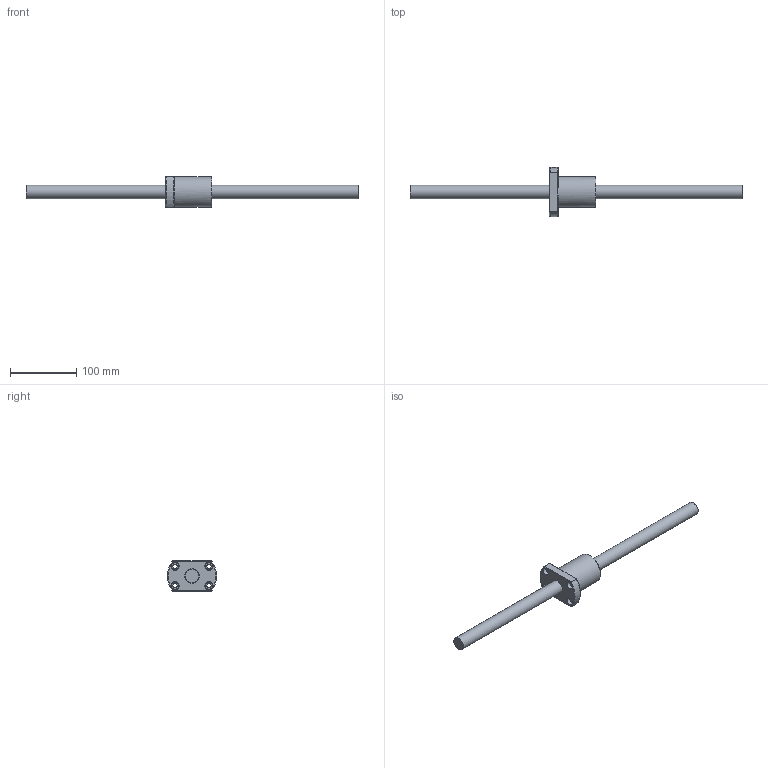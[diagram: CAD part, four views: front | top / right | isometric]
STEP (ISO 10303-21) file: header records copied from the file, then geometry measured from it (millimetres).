
FILE_DESCRIPTION (( 'STEP AP203' ), '1' );
FILE_NAME ('SFV02020D-1.8.step', '2024-05-20T03:37:57', ( '' ), ( '' ), 'SwSTEP 2.0', 'SolidWorks 2022', '' );
FILE_SCHEMA (( 'CONFIG_CONTROL_DESIGN' ));
Length unit declared in the file: millimetre
Products named in the file (1): SFV02020D-1.8
Bounding box: 500 x 74 x 46 mm (x, y, z)
Volume: 262113.1 mm3; surface area: 54713.9 mm2
Topology: 2 solids, 2 shells, 59 faces, 143 edges, 92 vertices
Faces by surface type: cylinder 21, plane 19, cone 9, torus 5, bspline 5
Full cylindrical faces by diameter (mm): 4 x1, 5 x6, 6.6 x4, 11 x4, 20 x1, 22.1 x1, 46 x1
Entity records: 3245 total; most frequent: CARTESIAN_POINT 2132, DIRECTION 202, ORIENTED_EDGE 184, EDGE_CURVE 92, EDGE_LOOP 92, AXIS2_PLACEMENT_3D 91, VERTEX_POINT 72, FACE_OUTER_BOUND 67
